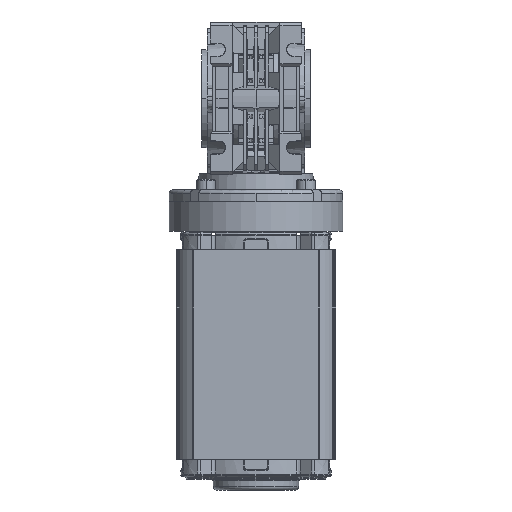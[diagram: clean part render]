
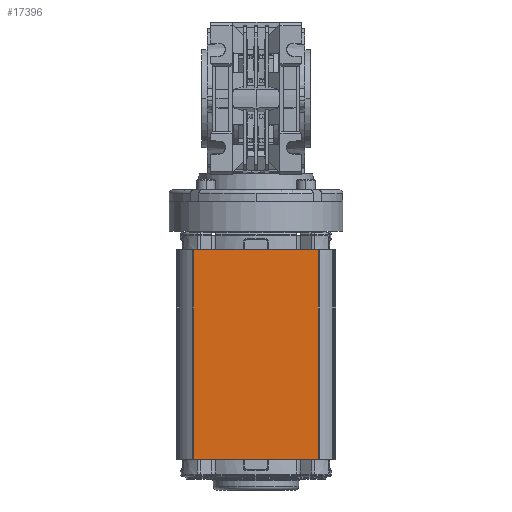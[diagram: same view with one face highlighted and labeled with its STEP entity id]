
A CAD part, front view. The second image highlights one B-rep face of the part: STEP entity #17396.
In plain terms, the highlighted planar face has unit normal (0, -1, 0).
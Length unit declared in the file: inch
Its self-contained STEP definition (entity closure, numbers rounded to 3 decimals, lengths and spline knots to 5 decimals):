
#75 = VERTEX_POINT ( 'NONE', #28024 ) ;
#1149 = VECTOR ( 'NONE', #87469, 39.37008 ) ;
#11181 = EDGE_CURVE ( 'NONE', #45474, #75, #91871, .T. ) ;
#13738 = CARTESIAN_POINT ( 'NONE',  ( -1.1275, -1.442, -4.802 ) ) ;
#14080 = DIRECTION ( 'NONE',  ( 0., -1., 0. ) ) ;
#17216 = CARTESIAN_POINT ( 'NONE',  ( -1.1275, -1.442, -0.872 ) ) ;
#17396 = ADVANCED_FACE ( 'NONE', ( #17488 ), #64958, .T. ) ;
#17488 = FACE_OUTER_BOUND ( 'NONE', #72528, .T. ) ;
#20507 = LINE ( 'NONE', #13738, #1149 ) ;
#22001 = CARTESIAN_POINT ( 'NONE',  ( 1.1275, -1.442, -4.667 ) ) ;
#22298 = DIRECTION ( 'NONE',  ( -1., 0., 0. ) ) ;
#25504 = CARTESIAN_POINT ( 'NONE',  ( 1.1275, -1.442, -4.667 ) ) ;
#28024 = CARTESIAN_POINT ( 'NONE',  ( -1.1275, -1.442, -4.667 ) ) ;
#29313 = CARTESIAN_POINT ( 'NONE',  ( 1.1275, -1.442, -0.872 ) ) ;
#30502 = CARTESIAN_POINT ( 'NONE',  ( -1.1475, -1.442, -0.872 ) ) ;
#36210 = CARTESIAN_POINT ( 'NONE',  ( 1.1275, -1.442, -4.802 ) ) ;
#43607 = DIRECTION ( 'NONE',  ( 0., 0., 1. ) ) ;
#45474 = VERTEX_POINT ( 'NONE', #25504 ) ;
#48554 = LINE ( 'NONE', #30502, #65768 ) ;
#51228 = ORIENTED_EDGE ( 'NONE', *, *, #11181, .F. ) ;
#52788 = VECTOR ( 'NONE', #22298, 39.37008 ) ;
#52899 = DIRECTION ( 'NONE',  ( 1., 0., 0. ) ) ;
#53578 = ORIENTED_EDGE ( 'NONE', *, *, #60431, .F. ) ;
#56434 = VECTOR ( 'NONE', #43607, 39.37008 ) ;
#57702 = ORIENTED_EDGE ( 'NONE', *, *, #81064, .T. ) ;
#57947 = CARTESIAN_POINT ( 'NONE',  ( -1.1475, -1.442, -4.802 ) ) ;
#60431 = EDGE_CURVE ( 'NONE', #78153, #92510, #48554, .T. ) ;
#64958 = PLANE ( 'NONE',  #67186 ) ;
#65266 = DIRECTION ( 'NONE',  ( 1., 0., 0. ) ) ;
#65768 = VECTOR ( 'NONE', #52899, 39.37008 ) ;
#67186 = AXIS2_PLACEMENT_3D ( 'NONE', #57947, #14080, #65266 ) ;
#70046 = ORIENTED_EDGE ( 'NONE', *, *, #75289, .T. ) ;
#72528 = EDGE_LOOP ( 'NONE', ( #70046, #51228, #57702, #53578 ) ) ;
#75289 = EDGE_CURVE ( 'NONE', #78153, #75, #20507, .T. ) ;
#75946 = LINE ( 'NONE', #36210, #56434 ) ;
#78153 = VERTEX_POINT ( 'NONE', #17216 ) ;
#81064 = EDGE_CURVE ( 'NONE', #45474, #92510, #75946, .T. ) ;
#87469 = DIRECTION ( 'NONE',  ( 0., 0., -1. ) ) ;
#91871 = LINE ( 'NONE', #22001, #52788 ) ;
#92510 = VERTEX_POINT ( 'NONE', #29313 ) ;
